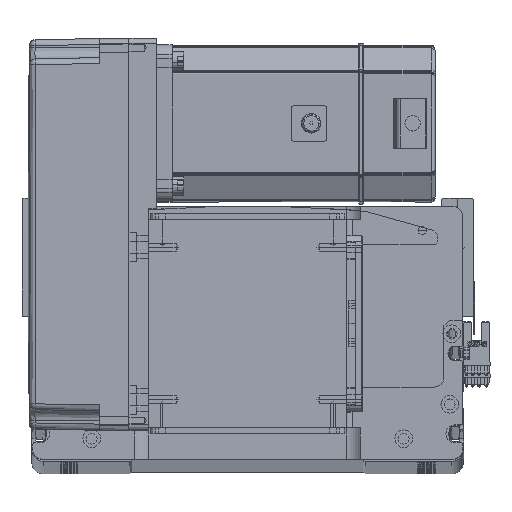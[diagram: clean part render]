
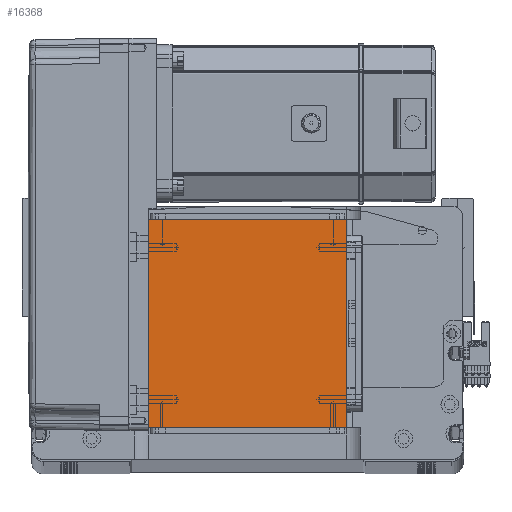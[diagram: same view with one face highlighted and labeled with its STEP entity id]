
A CAD part, top view. The second image highlights one B-rep face of the part: STEP entity #16368.
In plain terms, the highlighted planar face has unit normal (0, 0, 1).
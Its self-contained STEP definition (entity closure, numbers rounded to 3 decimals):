
#1279 = CARTESIAN_POINT ( 'NONE',  ( 50.5, 16., 115. ) ) ;
#1843 = VECTOR ( 'NONE', #49660, 1000. ) ;
#7413 = ORIENTED_EDGE ( 'NONE', *, *, #47483, .T. ) ;
#10669 = LINE ( 'NONE', #11925, #32181 ) ;
#10690 = LINE ( 'NONE', #45744, #1843 ) ;
#10941 = CARTESIAN_POINT ( 'NONE',  ( 0., 0., 115. ) ) ;
#11925 = CARTESIAN_POINT ( 'NONE',  ( 50.5, 122., 115. ) ) ;
#14421 = CARTESIAN_POINT ( 'NONE',  ( -50.5, 122., 115. ) ) ;
#14697 = LINE ( 'NONE', #14421, #21280 ) ;
#15453 = EDGE_CURVE ( 'NONE', #56612, #57897, #31200, .T. ) ;
#15492 = DIRECTION ( 'NONE',  ( 0., 0., 1. ) ) ;
#15851 = EDGE_LOOP ( 'NONE', ( #60954, #43254, #7413, #56215 ) ) ;
#16368 = ADVANCED_FACE ( 'NONE', ( #50137 ), #49189, .T. ) ;
#20657 = CARTESIAN_POINT ( 'NONE',  ( 50.5, 122., 115. ) ) ;
#21280 = VECTOR ( 'NONE', #23302, 1000. ) ;
#23302 = DIRECTION ( 'NONE',  ( 0., -1., 0. ) ) ;
#23411 = VERTEX_POINT ( 'NONE', #1279 ) ;
#23877 = EDGE_CURVE ( 'NONE', #57897, #54134, #14697, .T. ) ;
#27294 = CARTESIAN_POINT ( 'NONE',  ( -50.5, 122., 115. ) ) ;
#30133 = DIRECTION ( 'NONE',  ( 1., 0., 0. ) ) ;
#30482 = VECTOR ( 'NONE', #36794, 1000. ) ;
#31200 = LINE ( 'NONE', #27294, #30482 ) ;
#31730 = EDGE_CURVE ( 'NONE', #54134, #23411, #10690, .T. ) ;
#32181 = VECTOR ( 'NONE', #45032, 1000. ) ;
#35166 = AXIS2_PLACEMENT_3D ( 'NONE', #10941, #15492, #30133 ) ;
#35213 = CARTESIAN_POINT ( 'NONE',  ( -50.5, 122., 115. ) ) ;
#36794 = DIRECTION ( 'NONE',  ( -1., 0., 0. ) ) ;
#43254 = ORIENTED_EDGE ( 'NONE', *, *, #31730, .T. ) ;
#45032 = DIRECTION ( 'NONE',  ( 0., 1., 0. ) ) ;
#45744 = CARTESIAN_POINT ( 'NONE',  ( -50.5, 16., 115. ) ) ;
#47483 = EDGE_CURVE ( 'NONE', #23411, #56612, #10669, .T. ) ;
#48670 = CARTESIAN_POINT ( 'NONE',  ( -50.5, 16., 115. ) ) ;
#49189 = PLANE ( 'NONE',  #35166 ) ;
#49660 = DIRECTION ( 'NONE',  ( 1., 0., 0. ) ) ;
#50137 = FACE_OUTER_BOUND ( 'NONE', #15851, .T. ) ;
#54134 = VERTEX_POINT ( 'NONE', #48670 ) ;
#56215 = ORIENTED_EDGE ( 'NONE', *, *, #15453, .T. ) ;
#56612 = VERTEX_POINT ( 'NONE', #20657 ) ;
#57897 = VERTEX_POINT ( 'NONE', #35213 ) ;
#60954 = ORIENTED_EDGE ( 'NONE', *, *, #23877, .T. ) ;
